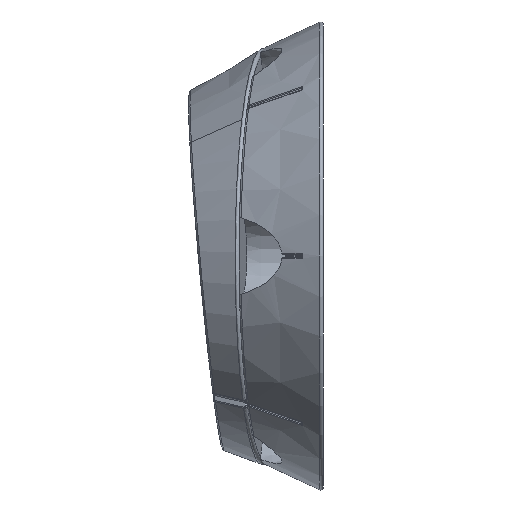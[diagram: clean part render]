
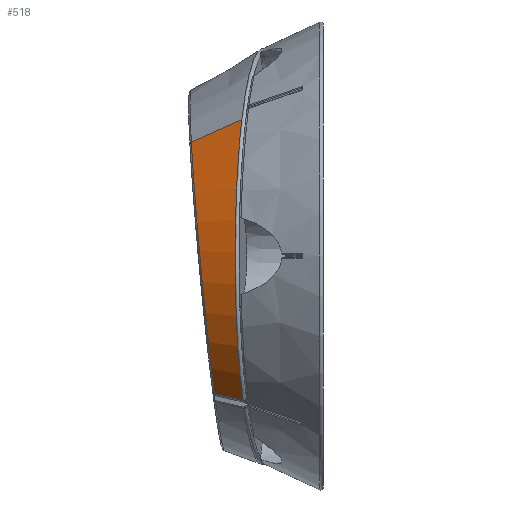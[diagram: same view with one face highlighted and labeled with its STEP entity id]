
A CAD part, left-side view. The second image highlights one B-rep face of the part: STEP entity #518.
In plain terms, the highlighted conical face has half-angle 25 degrees and reference radius 40 mm.
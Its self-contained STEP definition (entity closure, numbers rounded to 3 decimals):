
#70 = CARTESIAN_POINT ( 'NONE',  ( -30.332, 14.688, 12.535 ) ) ;
#105 = CARTESIAN_POINT ( 'NONE',  ( -21.728, 18.247, -23.377 ) ) ;
#448 = CONICAL_SURFACE ( 'NONE', #9174, 40., 0.436 ) ;
#518 = ADVANCED_FACE ( 'NONE', ( #11292 ), #448, .T. ) ;
#527 = VERTEX_POINT ( 'NONE', #5001 ) ;
#708 = CARTESIAN_POINT ( 'NONE',  ( -30.707, 14.705, -12.46 ) ) ;
#939 = B_SPLINE_CURVE_WITH_KNOTS ( 'NONE', 3,
 ( #9276, #8304, #5472, #105, #11089, #10910, #10171, #1916, #7345, #5588 ),
 .UNSPECIFIED., .F., .F.,
 ( 4, 3, 3, 4 ),
 ( 0., 0.001, 0.003, 0.006 ),
 .UNSPECIFIED. ) ;
#1187 = CARTESIAN_POINT ( 'NONE',  ( -32.564, 14.968, 3.618 ) ) ;
#1244 = CARTESIAN_POINT ( 'NONE',  ( -32.777, 14.991, 0.344 ) ) ;
#1257 = DIRECTION ( 'NONE',  ( -0.038, -0.995, 0.092 ) ) ;
#1861 = EDGE_CURVE ( 'NONE', #3773, #527, #5342, .T. ) ;
#1916 = CARTESIAN_POINT ( 'NONE',  ( -22.814, 15.274, -24.066 ) ) ;
#1936 = CARTESIAN_POINT ( 'NONE',  ( -26.794, 14.185, -20.164 ) ) ;
#1989 = CARTESIAN_POINT ( 'NONE',  ( -32.736, 14.987, 1.436 ) ) ;
#2667 = CARTESIAN_POINT ( 'NONE',  ( -31.52, 14.814, -9.856 ) ) ;
#2809 = CARTESIAN_POINT ( 'NONE',  ( -23.378, 13.734, -24.423 ) ) ;
#2811 = CIRCLE ( 'NONE', #11691, 30.808 ) ;
#2833 = CARTESIAN_POINT ( 'NONE',  ( -24.832, 13.925, -22.792 ) ) ;
#3031 = B_SPLINE_CURVE_WITH_KNOTS ( 'NONE', 3,
 ( #3739, #8084, #2833, #10193, #1936, #8148, #10025, #708, #4413, #2667, #11847, #3567, #10938, #6341, #5667, #11170, #1244, #1989, #6576, #1187, #6750, #9462, #3907, #70, #7707, #4763, #3796, #9525, #4936, #10492, #9298, #7648 ),
 .UNSPECIFIED., .F., .F.,
 ( 4, 2, 2, 2, 2, 2, 2, 2, 2, 2, 2, 2, 2, 2, 2, 4 ),
 ( 0., 0.003, 0.007, 0.013, 0.016, 0.018, 0.02, 0.026, 0.028, 0.03, 0.033, 0.039, 0.041, 0.043, 0.046, 0.053 ),
 .UNSPECIFIED. ) ;
#3185 = CARTESIAN_POINT ( 'NONE',  ( 0.259, -0.034, -0.63 ) ) ;
#3567 = CARTESIAN_POINT ( 'NONE',  ( -31.918, 14.868, -8.266 ) ) ;
#3739 = CARTESIAN_POINT ( 'NONE',  ( -23.378, 13.734, -24.423 ) ) ;
#3773 = VERTEX_POINT ( 'NONE', #5548 ) ;
#3796 = CARTESIAN_POINT ( 'NONE',  ( -29.474, 14.579, 14.545 ) ) ;
#3907 = CARTESIAN_POINT ( 'NONE',  ( -31.286, 14.809, 9.981 ) ) ;
#3999 = EDGE_CURVE ( 'NONE', #4358, #11149, #939, .T. ) ;
#4358 = VERTEX_POINT ( 'NONE', #9400 ) ;
#4413 = CARTESIAN_POINT ( 'NONE',  ( -31.06, 14.752, -11.432 ) ) ;
#4695 = ORIENTED_EDGE ( 'NONE', *, *, #11812, .T. ) ;
#4763 = CARTESIAN_POINT ( 'NONE',  ( -29.699, 14.607, 14.049 ) ) ;
#4936 = CARTESIAN_POINT ( 'NONE',  ( -28.253, 14.422, 16.965 ) ) ;
#5001 = CARTESIAN_POINT ( 'NONE',  ( -23.874, 13.859, 23.132 ) ) ;
#5066 = DIRECTION ( 'NONE',  ( 0.701, -0.092, -0.707 ) ) ;
#5342 = LINE ( 'NONE', #11864, #10530 ) ;
#5427 = ORIENTED_EDGE ( 'NONE', *, *, #3999, .T. ) ;
#5472 = CARTESIAN_POINT ( 'NONE',  ( -21.696, 18.333, -23.357 ) ) ;
#5548 = CARTESIAN_POINT ( 'NONE',  ( -20.593, 22.422, 19.336 ) ) ;
#5588 = CARTESIAN_POINT ( 'NONE',  ( -23.378, 13.734, -24.423 ) ) ;
#5667 = CARTESIAN_POINT ( 'NONE',  ( -32.764, 14.985, -2.919 ) ) ;
#6180 = DIRECTION ( 'NONE',  ( -0.331, -0.863, 0.382 ) ) ;
#6341 = CARTESIAN_POINT ( 'NONE',  ( -32.55, 14.955, -5.071 ) ) ;
#6576 = CARTESIAN_POINT ( 'NONE',  ( -32.702, 14.984, 1.985 ) ) ;
#6583 = EDGE_CURVE ( 'NONE', #11149, #527, #3031, .T. ) ;
#6750 = CARTESIAN_POINT ( 'NONE',  ( -32.423, 14.951, 4.695 ) ) ;
#6820 = CARTESIAN_POINT ( 'NONE',  ( 1.006, 19.579, -2.449 ) ) ;
#7345 = CARTESIAN_POINT ( 'NONE',  ( -23.096, 14.504, -24.245 ) ) ;
#7648 = CARTESIAN_POINT ( 'NONE',  ( -23.874, 13.859, 23.132 ) ) ;
#7707 = CARTESIAN_POINT ( 'NONE',  ( -30.128, 14.662, 13.044 ) ) ;
#8084 = CARTESIAN_POINT ( 'NONE',  ( -24.124, 13.832, -23.625 ) ) ;
#8148 = CARTESIAN_POINT ( 'NONE',  ( -28.535, 14.415, -17.406 ) ) ;
#8165 = EDGE_LOOP ( 'NONE', ( #9901, #4695, #5427, #9726 ) ) ;
#8304 = CARTESIAN_POINT ( 'NONE',  ( -21.665, 18.419, -23.337 ) ) ;
#9174 = AXIS2_PLACEMENT_3D ( 'NONE', #3185, #10499, #11474 ) ;
#9276 = CARTESIAN_POINT ( 'NONE',  ( -21.633, 18.506, -23.318 ) ) ;
#9298 = CARTESIAN_POINT ( 'NONE',  ( -25.317, 14.045, 21.491 ) ) ;
#9400 = CARTESIAN_POINT ( 'NONE',  ( -21.633, 18.506, -23.318 ) ) ;
#9462 = CARTESIAN_POINT ( 'NONE',  ( -31.855, 14.881, 7.893 ) ) ;
#9525 = CARTESIAN_POINT ( 'NONE',  ( -28.767, 14.488, 16.013 ) ) ;
#9726 = ORIENTED_EDGE ( 'NONE', *, *, #6583, .T. ) ;
#9901 = ORIENTED_EDGE ( 'NONE', *, *, #1861, .F. ) ;
#10025 = CARTESIAN_POINT ( 'NONE',  ( -29.512, 14.545, -15.479 ) ) ;
#10171 = CARTESIAN_POINT ( 'NONE',  ( -22.533, 16.045, -23.888 ) ) ;
#10193 = CARTESIAN_POINT ( 'NONE',  ( -26.166, 14.102, -21.063 ) ) ;
#10492 = CARTESIAN_POINT ( 'NONE',  ( -26.59, 14.209, 19.743 ) ) ;
#10499 = DIRECTION ( 'NONE',  ( -0.038, -0.995, 0.092 ) ) ;
#10530 = VECTOR ( 'NONE', #6180, 1000. ) ;
#10910 = CARTESIAN_POINT ( 'NONE',  ( -22.264, 16.779, -23.718 ) ) ;
#10938 = CARTESIAN_POINT ( 'NONE',  ( -32.034, 14.884, -7.735 ) ) ;
#11089 = CARTESIAN_POINT ( 'NONE',  ( -21.996, 17.513, -23.548 ) ) ;
#11149 = VERTEX_POINT ( 'NONE', #2809 ) ;
#11170 = CARTESIAN_POINT ( 'NONE',  ( -32.786, 14.992, -0.201 ) ) ;
#11292 = FACE_OUTER_BOUND ( 'NONE', #8165, .T. ) ;
#11474 = DIRECTION ( 'NONE',  ( -0.701, 0.092, 0.707 ) ) ;
#11691 = AXIS2_PLACEMENT_3D ( 'NONE', #6820, #1257, #5066 ) ;
#11812 = EDGE_CURVE ( 'NONE', #3773, #4358, #2811, .T. ) ;
#11847 = CARTESIAN_POINT ( 'NONE',  ( -31.662, 14.833, -9.326 ) ) ;
#11864 = CARTESIAN_POINT ( 'NONE',  ( -27.784, 3.658, 27.654 ) ) ;
